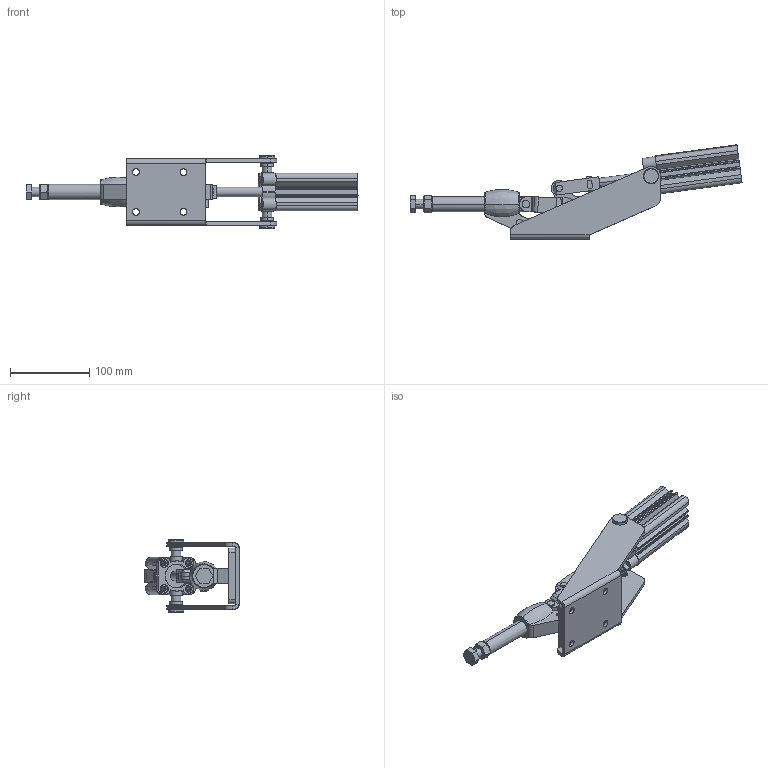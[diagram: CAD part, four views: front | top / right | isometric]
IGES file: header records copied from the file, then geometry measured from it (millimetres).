
Start section: SolidWorks IGES file using analytic representation for surfaces
Global section: file name: C:\Projetos\Grampos\KF-052 P\KF-052 P\KF-052 P.IGS; native system: SolidWorks 2015; preprocessor: SolidWorks 2015; author: Ricardo; date: 161215.133018; units: millimetre
Bounding box: 417.81 x 118.66 x 91.5 mm (x, y, z)
Surface area: 191042.8 mm2 (no closed solid volume)
Topology: 0 solids, 0 shells, 1044 faces, 16184 edges, 16174 vertices
Faces by surface type: bspline 641, revolution 403
